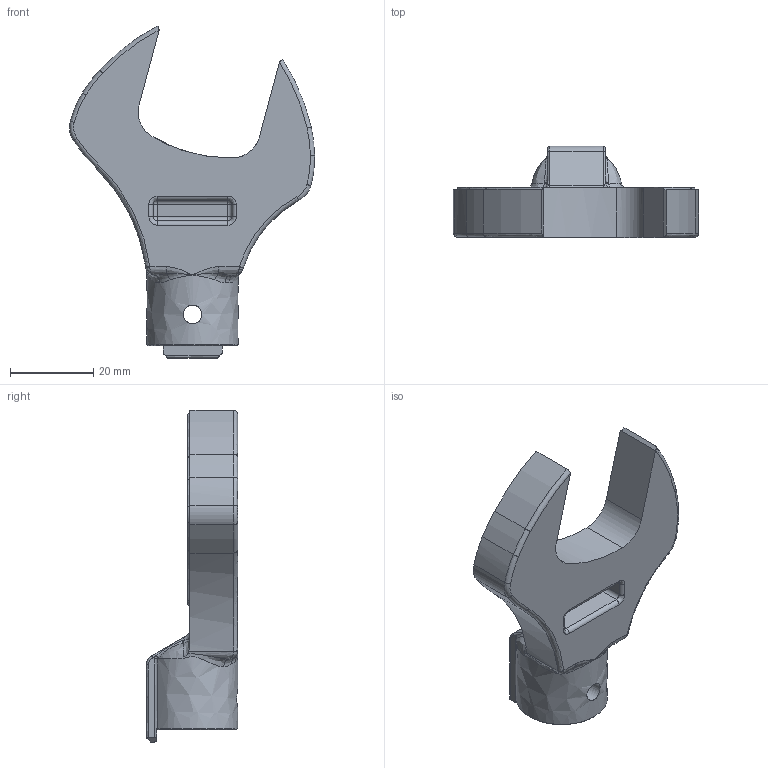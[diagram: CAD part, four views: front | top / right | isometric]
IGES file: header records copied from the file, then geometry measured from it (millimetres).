
Global section: file name: SH15DX30; native system: Autodesk Inventor 2016; preprocessor: unknown; author: Q600; date: 20151029.183900; units: millimetre
Bounding box: 59.04 x 22 x 79.95 mm (x, y, z)
Volume: 23289.5 mm3; surface area: 8850.8 mm2
Topology: 1 solids, 1 shells, 136 faces, 358 edges, 216 vertices
Faces by surface type: bspline 136
